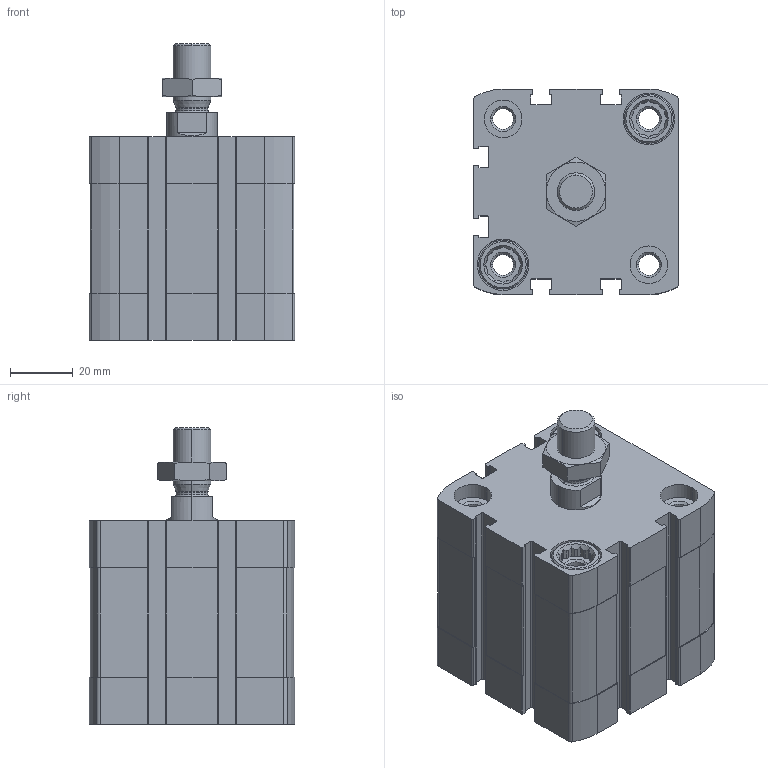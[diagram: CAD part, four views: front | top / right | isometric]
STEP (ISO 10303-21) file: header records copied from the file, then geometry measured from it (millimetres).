
FILE_DESCRIPTION (( 'STEP AP203' ), '1' );
FILE_NAME ('CCN50-20M.STEP', '2017-04-05T13:24:29', ( '' ), ( '' ), 'SwSTEP 2.0', 'SolidWorks 2016', '' );
FILE_SCHEMA (( 'CONFIG_CONTROL_DESIGN' ));
Length unit declared in the file: millimetre
Products named in the file (4): CCN50-20M; CCN-20----(Z); CCN-20_(KS); _DIN-439-B - M12x1.25(F)
Assembly tree (3 placements, depth 2):
  CCN50-20M
    CCN-20----(Z)
    CCN-20_(KS)
    _DIN-439-B - M12x1.25(F)
Bounding box: 65.5 x 65.5 x 94.7 mm (x, y, z)
Volume: 217586.8 mm3; surface area: 58174.3 mm2
Topology: 3 solids, 3 shells, 491 faces, 1316 edges, 862 vertices
Faces by surface type: plane 227, cylinder 212, cone 48, bspline 4
Entity records: 16072 total; most frequent: CARTESIAN_POINT 3135, DIRECTION 2672, ORIENTED_EDGE 2632, EDGE_CURVE 1316, AXIS2_PLACEMENT_3D 977, VERTEX_POINT 862, VECTOR 718, LINE 718
